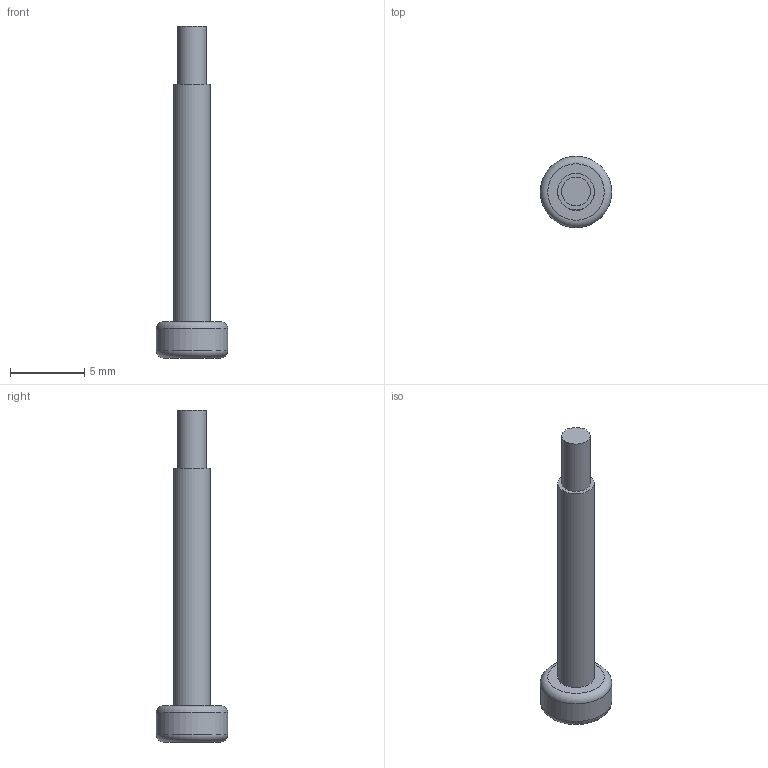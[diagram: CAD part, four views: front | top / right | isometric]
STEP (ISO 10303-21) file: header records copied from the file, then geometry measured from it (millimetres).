
FILE_DESCRIPTION(/* description */ (''),/* implementation_level */ '2;1');
FILE_NAME(/* name */ 'Y-JG-WJ-B00144-01.stp',/* time_stamp */ '2024-04-13T19:05:08+08:00',/* author */ (''),/* organization */ (''),/* preprocessor_version */ 'ST-DEVELOPER v16',/* originating_system */ 'SIEMENS PLM Software NX 10.0',/* authorisation */ '');
FILE_SCHEMA (('AUTOMOTIVE_DESIGN { 1 0 10303 214 3 1 1 1 }'));
Length unit declared in the file: millimetre
Products named in the file (1): _model3
Bounding box: 4.8 x 4.8 x 22.3 mm (x, y, z)
Volume: 126.1 mm3; surface area: 221.1 mm2
Topology: 1 solids, 1 shells, 16 faces, 31 edges, 20 vertices
Faces by surface type: plane 11, cylinder 3, torus 2
Full cylindrical faces by diameter (mm): 1.93 x1, 2.46 x1, 4.8 x1
Entity records: 406 total; most frequent: DIRECTION 68, CARTESIAN_POINT 63, ORIENTED_EDGE 52, EDGE_CURVE 26, AXIS2_PLACEMENT_3D 25, EDGE_LOOP 24, VERTEX_POINT 20, LINE 18
